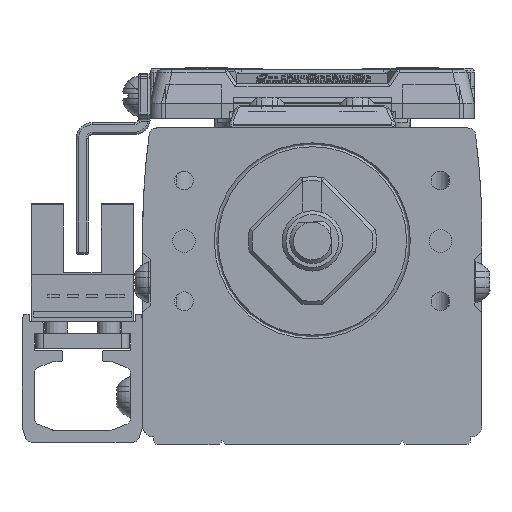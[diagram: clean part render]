
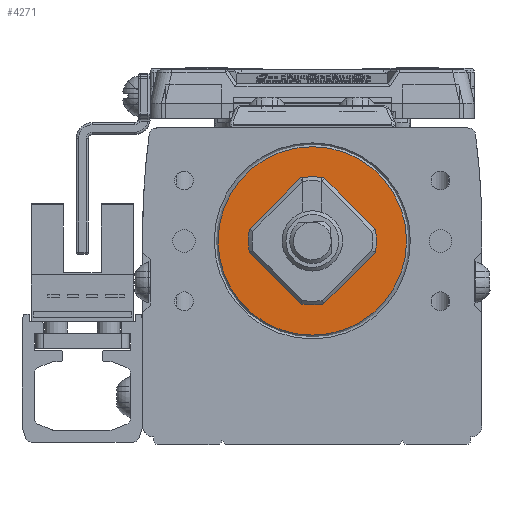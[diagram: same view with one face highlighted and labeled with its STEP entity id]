
A CAD part, left-side view. The second image highlights one B-rep face of the part: STEP entity #4271.
In plain terms, the highlighted planar face has unit normal (-1, 0, 0) as drawn and (0, 0, 1) by its records, which use the part's own axes.
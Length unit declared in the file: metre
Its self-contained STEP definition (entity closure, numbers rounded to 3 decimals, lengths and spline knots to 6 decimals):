
#4271=ADVANCED_FACE('',(#9282,#9283),#9284,.T.);
#9282=FACE_OUTER_BOUND('',#16325,.T.);
#9283=FACE_BOUND('',#16326,.T.);
#9284=PLANE('',#16327);
#16325=EDGE_LOOP('',(#28460));
#16326=EDGE_LOOP('',(#28461));
#16327=AXIS2_PLACEMENT_3D('',#28462,#28463,#28464);
#28460=ORIENTED_EDGE('',*,*,#43188,.T.);
#28461=ORIENTED_EDGE('',*,*,#43189,.F.);
#28462=CARTESIAN_POINT('',(0.000046,-0.005386,0.018));
#28463=DIRECTION('',(0.0,0.0,1.0));
#28464=DIRECTION('',(1.0,0.0,0.0));
#43188=EDGE_CURVE('',#51734,#51734,#51735,.T.);
#43189=EDGE_CURVE('',#51736,#51736,#51737,.T.);
#51734=VERTEX_POINT('',#63874);
#51735=CIRCLE('',#63875,0.0125);
#51736=VERTEX_POINT('',#63876);
#51737=CIRCLE('',#63877,0.004);
#63874=CARTESIAN_POINT('',(-0.0125,0.,0.018));
#63875=AXIS2_PLACEMENT_3D('',#74584,#74585,#74586);
#63876=CARTESIAN_POINT('',(0.004,0.0,0.018));
#63877=AXIS2_PLACEMENT_3D('',#74587,#74588,#74589);
#74584=CARTESIAN_POINT('',(0.0,0.,0.018));
#74585=DIRECTION('',(0.0,0.0,1.0));
#74586=DIRECTION('',(1.0,0.0,0.0));
#74587=CARTESIAN_POINT('',(0.0,0.0,0.018));
#74588=DIRECTION('',(0.0,0.0,1.0));
#74589=DIRECTION('',(-1.0,0.0,0.0));
